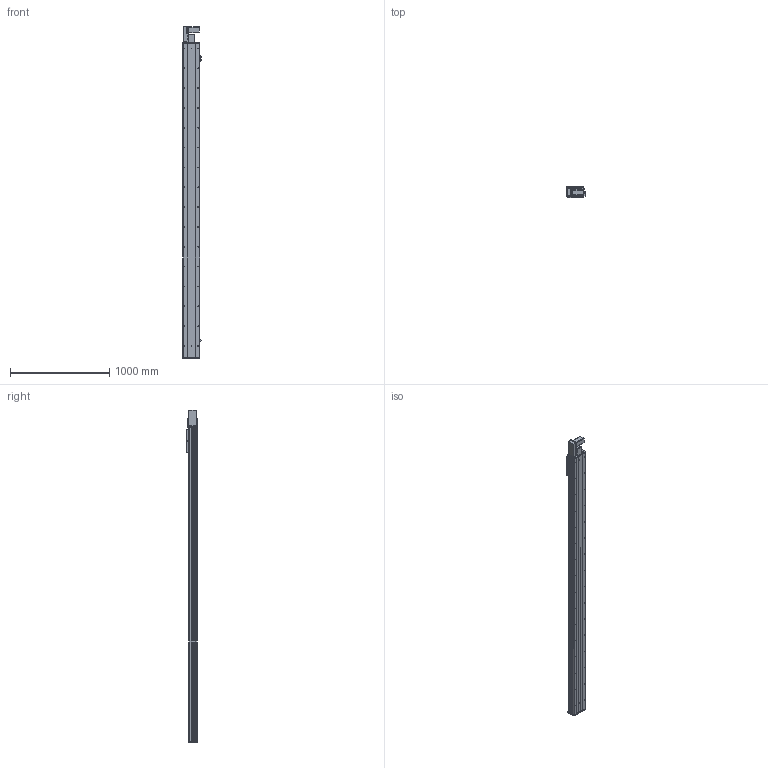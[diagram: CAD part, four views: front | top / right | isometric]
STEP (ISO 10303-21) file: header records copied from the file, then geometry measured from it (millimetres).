
FILE_DESCRIPTION (( 'STEP AP203' ), '1' );
FILE_NAME ('Y170CB-D105-S2850-BL-P400W.STEP', '2020-02-20T01:54:35', ( '微软用户' ), ( '微软中国' ), 'SwSTEP 2.0', 'SolidWorks 2017', '' );
FILE_SCHEMA (( 'CONFIG_CONTROL_DESIGN' ));
Length unit declared in the file: millimetre
Products named in the file (18): 0B-萇儂楊擘啣; Y1埴倛裔; san松下电机400不带刹车----; Y170CB-D105-S2850-BL-P400W; 70CB--耜裔; Y70俋欶BR----; 70C-雄赽釱-奻-; 70CB-掛极-; 0C--雄赽釱俋欶-170; --70CB --喘謫眊楊擘啣-; 70CB-詩湍--; 70CB-耜裔啣-; Y100-135俋离換覜ん--; 70C--詩湍揤踡え-; B-源倛裔啣; Y170CB-陔俋离換覜結え---; 17B-耜蚾蟀諉啣----; 70B喘謫眊----
Assembly tree (21 placements, depth 2):
  Y170CB-D105-S2850-BL-P400W
    B-源倛裔啣
    17B-耜蚾蟀諉啣----
    0B-萇儂楊擘啣
    san松下电机400不带刹车----
    Y70俋欶BR----
    70CB-掛极-
    --70CB --喘謫眊楊擘啣-
    70CB-耜裔啣-  x2
    70C--詩湍揤踡え-  x2
    70CB--耜裔
    70C-雄赽釱-奻-
    0C--雄赽釱俋欶-170
    70CB-詩湍--
    Y100-135俋离換覜ん--  x3
    Y170CB-陔俋离換覜結え---
    70B喘謫眊----
    Y1埴倛裔
Bounding box: 183.5 x 107 x 3347 mm (x, y, z)
Volume: 13822041.7 mm3; surface area: 4993255.9 mm2
Topology: 21 solids, 21 shells, 1079 faces, 2909 edges, 1930 vertices
Faces by surface type: cylinder 591, plane 464, cone 24
Entity records: 34656 total; most frequent: CARTESIAN_POINT 6396, DIRECTION 5638, ORIENTED_EDGE 5300, EDGE_CURVE 2650, AXIS2_PLACEMENT_3D 2084, VERTEX_POINT 1760, VECTOR 1470, LINE 1470
